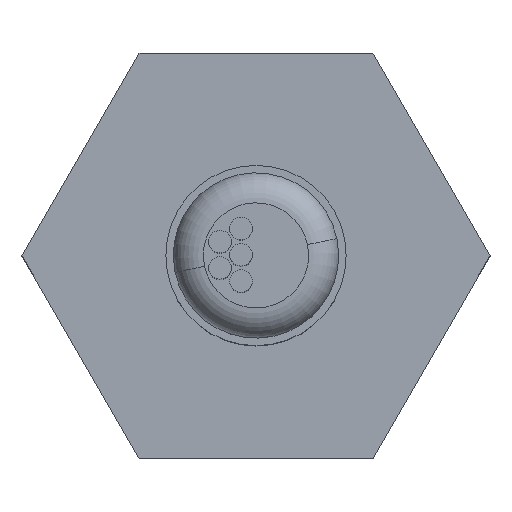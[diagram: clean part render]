
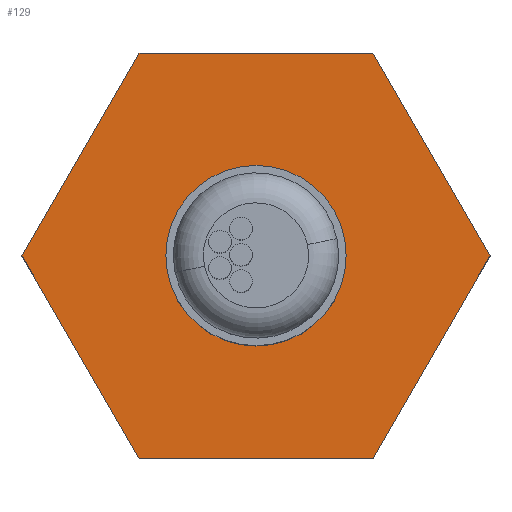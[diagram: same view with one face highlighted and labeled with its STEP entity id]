
A CAD part, top view. The second image highlights one B-rep face of the part: STEP entity #129.
In plain terms, the highlighted planar face has unit normal (0, 0, 1).
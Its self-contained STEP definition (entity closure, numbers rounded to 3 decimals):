
#27 = VERTEX_POINT ( 'NONE', #1304 ) ;
#29 = CARTESIAN_POINT ( 'NONE',  ( -7.787, 13.487, 5. ) ) ;
#32 = EDGE_LOOP ( 'NONE', ( #1382, #1263 ) ) ;
#34 = DIRECTION ( 'NONE',  ( 0.5, 0.866, 0. ) ) ;
#45 = CARTESIAN_POINT ( 'NONE',  ( 15.574, 0., 5. ) ) ;
#89 = EDGE_LOOP ( 'NONE', ( #958, #1214, #386, #405, #1327, #1702 ) ) ;
#129 = ADVANCED_FACE ( 'NONE', ( #781, #923 ), #1212, .T. ) ;
#161 = AXIS2_PLACEMENT_3D ( 'NONE', #1319, #1366, #1478 ) ;
#223 = LINE ( 'NONE', #1780, #619 ) ;
#245 = VECTOR ( 'NONE', #1719, 1000. ) ;
#260 = EDGE_CURVE ( 'NONE', #695, #409, #423, .T. ) ;
#323 = CARTESIAN_POINT ( 'NONE',  ( 0., 0., 5. ) ) ;
#325 = CARTESIAN_POINT ( 'NONE',  ( -7.787, -13.487, 5. ) ) ;
#386 = ORIENTED_EDGE ( 'NONE', *, *, #1474, .T. ) ;
#394 = EDGE_CURVE ( 'NONE', #476, #1240, #1704, .T. ) ;
#405 = ORIENTED_EDGE ( 'NONE', *, *, #260, .T. ) ;
#409 = VERTEX_POINT ( 'NONE', #576 ) ;
#423 = LINE ( 'NONE', #1254, #597 ) ;
#430 = LINE ( 'NONE', #530, #913 ) ;
#461 = LINE ( 'NONE', #1280, #1292 ) ;
#471 = VERTEX_POINT ( 'NONE', #45 ) ;
#476 = VERTEX_POINT ( 'NONE', #1585 ) ;
#483 = DIRECTION ( 'NONE',  ( 1., 0., 0. ) ) ;
#530 = CARTESIAN_POINT ( 'NONE',  ( 7.787, 13.487, 5. ) ) ;
#576 = CARTESIAN_POINT ( 'NONE',  ( -15.574, 0., 5. ) ) ;
#577 = EDGE_CURVE ( 'NONE', #1240, #476, #1038, .T. ) ;
#597 = VECTOR ( 'NONE', #677, 1000. ) ;
#619 = VECTOR ( 'NONE', #1771, 1000. ) ;
#650 = DIRECTION ( 'NONE',  ( 1., 0., 0. ) ) ;
#667 = CARTESIAN_POINT ( 'NONE',  ( 7.787, -13.487, 5. ) ) ;
#677 = DIRECTION ( 'NONE',  ( -0.5, -0.866, 0. ) ) ;
#684 = CARTESIAN_POINT ( 'NONE',  ( 6., 0., 5. ) ) ;
#695 = VERTEX_POINT ( 'NONE', #29 ) ;
#746 = CARTESIAN_POINT ( 'NONE',  ( 0., 0., 5. ) ) ;
#781 = FACE_OUTER_BOUND ( 'NONE', #89, .T. ) ;
#913 = VECTOR ( 'NONE', #1393, 1000. ) ;
#923 = FACE_BOUND ( 'NONE', #32, .T. ) ;
#938 = CARTESIAN_POINT ( 'NONE',  ( -7.787, -13.487, 5. ) ) ;
#958 = ORIENTED_EDGE ( 'NONE', *, *, #1808, .T. ) ;
#974 = LINE ( 'NONE', #1671, #245 ) ;
#1024 = VECTOR ( 'NONE', #650, 1000. ) ;
#1038 = CIRCLE ( 'NONE', #1338, 6. ) ;
#1093 = VERTEX_POINT ( 'NONE', #325 ) ;
#1124 = DIRECTION ( 'NONE',  ( 0., 0., 1. ) ) ;
#1145 = DIRECTION ( 'NONE',  ( 0., 0., 1. ) ) ;
#1152 = AXIS2_PLACEMENT_3D ( 'NONE', #746, #1124, #1421 ) ;
#1212 = PLANE ( 'NONE',  #161 ) ;
#1214 = ORIENTED_EDGE ( 'NONE', *, *, #1332, .T. ) ;
#1240 = VERTEX_POINT ( 'NONE', #684 ) ;
#1254 = CARTESIAN_POINT ( 'NONE',  ( -7.787, 13.487, 5. ) ) ;
#1263 = ORIENTED_EDGE ( 'NONE', *, *, #577, .F. ) ;
#1280 = CARTESIAN_POINT ( 'NONE',  ( 7.787, -13.487, 5. ) ) ;
#1292 = VECTOR ( 'NONE', #34, 1000. ) ;
#1304 = CARTESIAN_POINT ( 'NONE',  ( 7.787, 13.487, 5. ) ) ;
#1316 = EDGE_CURVE ( 'NONE', #1093, #1340, #1790, .T. ) ;
#1319 = CARTESIAN_POINT ( 'NONE',  ( 0., 0., 5. ) ) ;
#1327 = ORIENTED_EDGE ( 'NONE', *, *, #1752, .T. ) ;
#1332 = EDGE_CURVE ( 'NONE', #471, #27, #223, .T. ) ;
#1338 = AXIS2_PLACEMENT_3D ( 'NONE', #323, #1145, #483 ) ;
#1340 = VERTEX_POINT ( 'NONE', #667 ) ;
#1366 = DIRECTION ( 'NONE',  ( 0., 0., 1. ) ) ;
#1382 = ORIENTED_EDGE ( 'NONE', *, *, #394, .F. ) ;
#1393 = DIRECTION ( 'NONE',  ( -1., 0., 0. ) ) ;
#1421 = DIRECTION ( 'NONE',  ( 1., 0., 0. ) ) ;
#1474 = EDGE_CURVE ( 'NONE', #27, #695, #430, .T. ) ;
#1478 = DIRECTION ( 'NONE',  ( 1., 0., 0. ) ) ;
#1585 = CARTESIAN_POINT ( 'NONE',  ( -6., 0., 5. ) ) ;
#1671 = CARTESIAN_POINT ( 'NONE',  ( -15.574, 0., 5. ) ) ;
#1702 = ORIENTED_EDGE ( 'NONE', *, *, #1316, .T. ) ;
#1704 = CIRCLE ( 'NONE', #1152, 6. ) ;
#1719 = DIRECTION ( 'NONE',  ( 0.5, -0.866, 0. ) ) ;
#1752 = EDGE_CURVE ( 'NONE', #409, #1093, #974, .T. ) ;
#1771 = DIRECTION ( 'NONE',  ( -0.5, 0.866, 0. ) ) ;
#1780 = CARTESIAN_POINT ( 'NONE',  ( 15.574, 0., 5. ) ) ;
#1790 = LINE ( 'NONE', #938, #1024 ) ;
#1808 = EDGE_CURVE ( 'NONE', #1340, #471, #461, .T. ) ;
